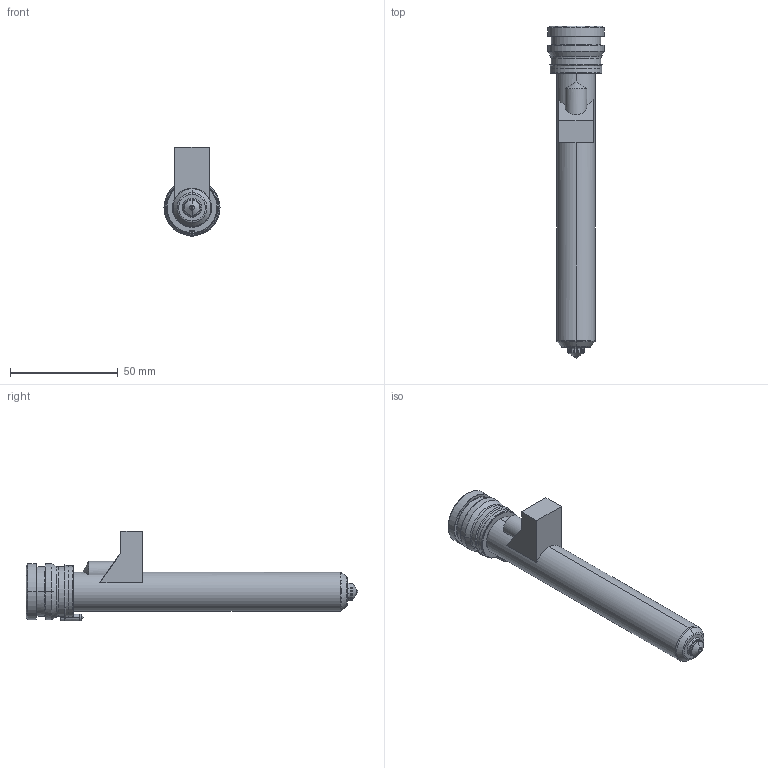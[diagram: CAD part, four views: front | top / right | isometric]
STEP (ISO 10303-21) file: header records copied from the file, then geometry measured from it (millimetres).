
FILE_DESCRIPTION((''),'2;1');
FILE_NAME('MPN-08-24-TS8-136-M','2026-02-05T13:24:52',('UPTIO'),('Thermoplay S.p.A.'),'CREO PARAMETRIC BY PTC INC, 2023494','CREO PARAMETRIC BY PTC INC, 2023494','');
FILE_SCHEMA(('CONFIG_CONTROL_DESIGN','SHAPE_APPEARANCE_LAYERS_GROUPS'));
Length unit declared in the file: millimetre
Products named in the file (1): MPN-08-24-TS8-136-M
Bounding box: 26 x 154 x 41.5 mm (x, y, z)
Volume: 29648.2 mm3; surface area: 39239.8 mm2
Topology: 2 solids, 5 shells, 532 faces, 1371 edges, 843 vertices
Faces by surface type: cylinder 172, plane 146, bspline 77, torus 62, cone 58, sphere 11, extrusion 6
Entity records: 27996 total; most frequent: CARTESIAN_POINT 12357, ORIENTED_EDGE 2720, DIRECTION 2456, EDGE_CURVE 1360, AXIS2_PLACEMENT_3D 960, VERTEX_POINT 843, EDGE_LOOP 561, VECTOR 536
